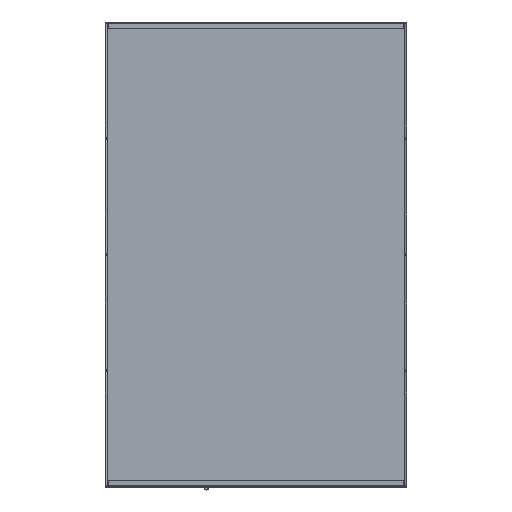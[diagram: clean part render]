
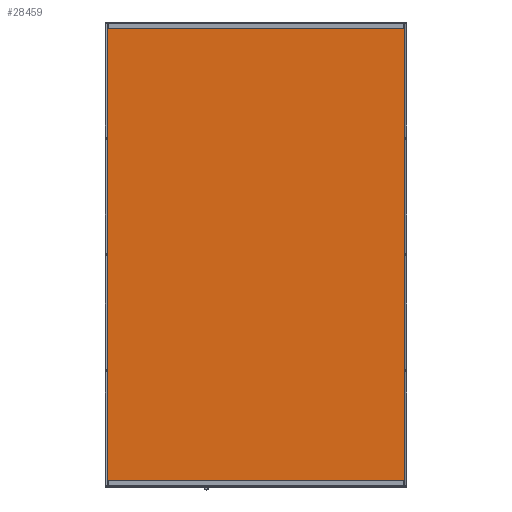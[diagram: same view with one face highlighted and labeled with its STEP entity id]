
A CAD part, top view. The second image highlights one B-rep face of the part: STEP entity #28459.
In plain terms, the highlighted planar face has unit normal (0, 0, 1).
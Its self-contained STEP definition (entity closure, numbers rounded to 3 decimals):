
#3382=FACE_OUTER_BOUND('',#5185,.T.);
#5185=EDGE_LOOP('',(#19313,#19314,#19315,#19316));
#7130=LINE('',#42735,#9873);
#7134=LINE('',#42743,#9877);
#7137=LINE('',#42749,#9880);
#7140=LINE('',#42754,#9883);
#9873=VECTOR('',#34129,10.);
#9877=VECTOR('',#34135,10.);
#9880=VECTOR('',#34140,10.);
#9883=VECTOR('',#34145,10.);
#12612=VERTEX_POINT('',#42733);
#12613=VERTEX_POINT('',#42734);
#12616=VERTEX_POINT('',#42742);
#12618=VERTEX_POINT('',#42748);
#15192=EDGE_CURVE('',#12612,#12613,#7130,.T.);
#15196=EDGE_CURVE('',#12616,#12613,#7134,.T.);
#15199=EDGE_CURVE('',#12618,#12616,#7137,.T.);
#15202=EDGE_CURVE('',#12618,#12612,#7140,.T.);
#19313=ORIENTED_EDGE('',*,*,#15202,.F.);
#19314=ORIENTED_EDGE('',*,*,#15199,.T.);
#19315=ORIENTED_EDGE('',*,*,#15196,.T.);
#19316=ORIENTED_EDGE('',*,*,#15192,.F.);
#27469=PLANE('',#31174);
#28459=ADVANCED_FACE('',(#3382),#27469,.T.);
#31174=AXIS2_PLACEMENT_3D('',#42756,#34147,#34148);
#34129=DIRECTION('',(-1.,0.,0.));
#34135=DIRECTION('',(0.,-1.,0.));
#34140=DIRECTION('',(-1.,0.,0.));
#34145=DIRECTION('',(0.,-1.,0.));
#34147=DIRECTION('center_axis',(0.,0.,1.));
#34148=DIRECTION('ref_axis',(-1.,0.,0.));
#42733=CARTESIAN_POINT('',(2600.,-990.,2263.));
#42734=CARTESIAN_POINT('',(-30.,-990.,2263.));
#42735=CARTESIAN_POINT('',(2600.,-990.,2263.));
#42742=CARTESIAN_POINT('',(-30.,3019.085,2263.));
#42743=CARTESIAN_POINT('',(-30.,-985.,2263.));
#42748=CARTESIAN_POINT('',(2600.,3019.085,2263.));
#42749=CARTESIAN_POINT('',(0.,3019.085,2263.));
#42754=CARTESIAN_POINT('',(2600.,1995.,2263.));
#42756=CARTESIAN_POINT('Origin',(1300.,1020.,2263.));
